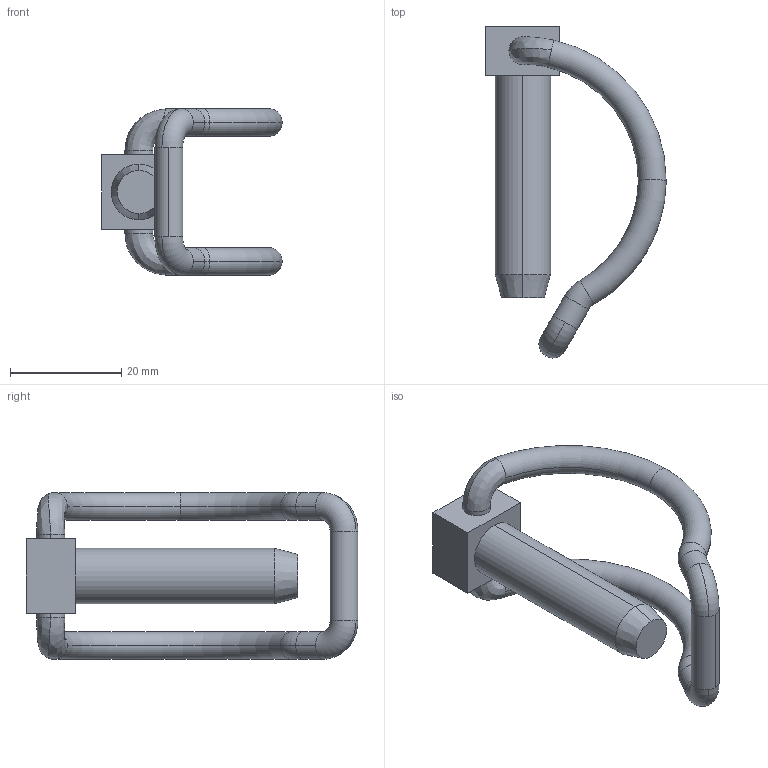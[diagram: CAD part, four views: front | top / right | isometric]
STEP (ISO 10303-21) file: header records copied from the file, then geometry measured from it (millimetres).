
FILE_DESCRIPTION (( 'STEP AP203' ), '1' );
FILE_NAME ('33320.W0101.step', '2025-02-04T13:41:10', ( '' ), ( '' ), 'SwSTEP 2.0', 'SolidWorks 2019', '' );
FILE_SCHEMA (( 'CONFIG_CONTROL_DESIGN' ));
Length unit declared in the file: millimetre
Products named in the file (3): 33320.W0101; part1_33320.W0101; Part5_33320.W0101
Assembly tree (2 placements, depth 2):
  33320.W0101
    part1_33320.W0101
    Part5_33320.W0101
Bounding box: 32.44 x 59.71 x 30 mm (x, y, z)
Volume: 7955.2 mm3; surface area: 5104.1 mm2
Topology: 2 solids, 2 shells, 43 faces, 98 edges, 60 vertices
Faces by surface type: cylinder 14, torus 14, plane 9, bspline 4, cone 2
Entity records: 1827 total; most frequent: CARTESIAN_POINT 518, DIRECTION 248, ORIENTED_EDGE 196, AXIS2_PLACEMENT_3D 110, EDGE_CURVE 98, CIRCLE 66, VERTEX_POINT 60, EDGE_LOOP 46
